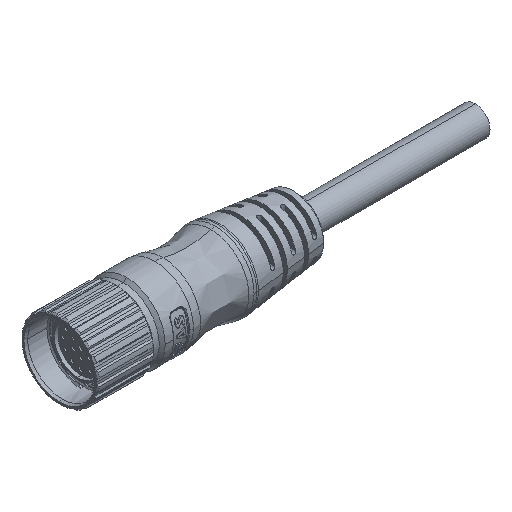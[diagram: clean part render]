
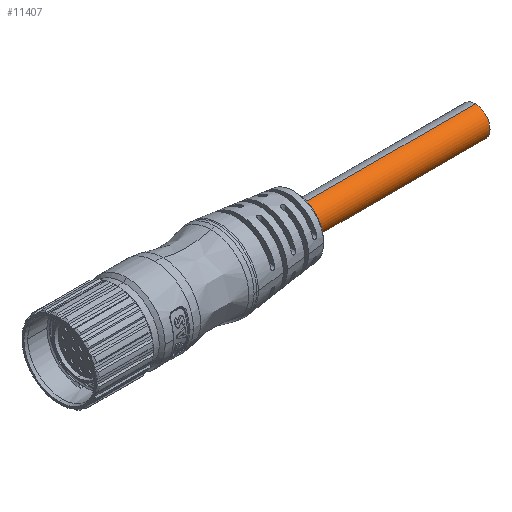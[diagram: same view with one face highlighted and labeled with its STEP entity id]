
A CAD part, isometric view. The second image highlights one B-rep face of the part: STEP entity #11407.
In plain terms, the highlighted cylindrical face has radius 4.9 mm (diameter 9.8 mm), a partial arc.
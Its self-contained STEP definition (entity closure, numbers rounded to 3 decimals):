
#473 = DIRECTION ( 'NONE',  ( 1., 0., 0. ) ) ;
#2958 = AXIS2_PLACEMENT_3D ( 'NONE', #34737, #46781, #23678 ) ;
#4315 = CARTESIAN_POINT ( 'NONE',  ( 20., 0., 0. ) ) ;
#6136 = CIRCLE ( 'NONE', #31597, 4.9 ) ;
#8136 = CARTESIAN_POINT ( 'NONE',  ( 120., 0., 4.9 ) ) ;
#8588 = DIRECTION ( 'NONE',  ( 1., 0., 0. ) ) ;
#8922 = ORIENTED_EDGE ( 'NONE', *, *, #28340, .T. ) ;
#10728 = DIRECTION ( 'NONE',  ( 0., 0., 1. ) ) ;
#11407 = ADVANCED_FACE ( 'NONE', ( #44346 ), #19726, .T. ) ;
#15855 = VERTEX_POINT ( 'NONE', #46320 ) ;
#17136 = VECTOR ( 'NONE', #49227, 1000. ) ;
#18155 = CARTESIAN_POINT ( 'NONE',  ( 20., 0., -4.9 ) ) ;
#19522 = VECTOR ( 'NONE', #8588, 1000. ) ;
#19726 = CYLINDRICAL_SURFACE ( 'NONE', #32149, 4.9 ) ;
#23019 = CARTESIAN_POINT ( 'NONE',  ( 60., 0., -4.9 ) ) ;
#23678 = DIRECTION ( 'NONE',  ( 0., 0., -1. ) ) ;
#26400 = LINE ( 'NONE', #18155, #17136 ) ;
#28340 = EDGE_CURVE ( 'NONE', #15855, #32000, #6136, .T. ) ;
#29247 = CIRCLE ( 'NONE', #2958, 4.9 ) ;
#31597 = AXIS2_PLACEMENT_3D ( 'NONE', #45384, #33359, #10728 ) ;
#32000 = VERTEX_POINT ( 'NONE', #23019 ) ;
#32149 = AXIS2_PLACEMENT_3D ( 'NONE', #4315, #473, #48216 ) ;
#32728 = ORIENTED_EDGE ( 'NONE', *, *, #49948, .F. ) ;
#33359 = DIRECTION ( 'NONE',  ( 1., 0., 0. ) ) ;
#33526 = ORIENTED_EDGE ( 'NONE', *, *, #46311, .T. ) ;
#34737 = CARTESIAN_POINT ( 'NONE',  ( 120., 0., 0. ) ) ;
#36691 = CARTESIAN_POINT ( 'NONE',  ( 120., 0., -4.9 ) ) ;
#37301 = EDGE_LOOP ( 'NONE', ( #41612, #8922, #33526, #32728 ) ) ;
#40452 = EDGE_CURVE ( 'NONE', #15855, #44831, #44004, .T. ) ;
#41612 = ORIENTED_EDGE ( 'NONE', *, *, #40452, .F. ) ;
#44004 = LINE ( 'NONE', #47606, #19522 ) ;
#44346 = FACE_OUTER_BOUND ( 'NONE', #37301, .T. ) ;
#44831 = VERTEX_POINT ( 'NONE', #8136 ) ;
#45384 = CARTESIAN_POINT ( 'NONE',  ( 60., 0., 0. ) ) ;
#46237 = VERTEX_POINT ( 'NONE', #36691 ) ;
#46311 = EDGE_CURVE ( 'NONE', #32000, #46237, #26400, .T. ) ;
#46320 = CARTESIAN_POINT ( 'NONE',  ( 60., 0., 4.9 ) ) ;
#46781 = DIRECTION ( 'NONE',  ( 1., 0., 0. ) ) ;
#47606 = CARTESIAN_POINT ( 'NONE',  ( 20., 0., 4.9 ) ) ;
#48216 = DIRECTION ( 'NONE',  ( 0., 0., -1. ) ) ;
#49227 = DIRECTION ( 'NONE',  ( 1., 0., 0. ) ) ;
#49948 = EDGE_CURVE ( 'NONE', #44831, #46237, #29247, .T. ) ;
